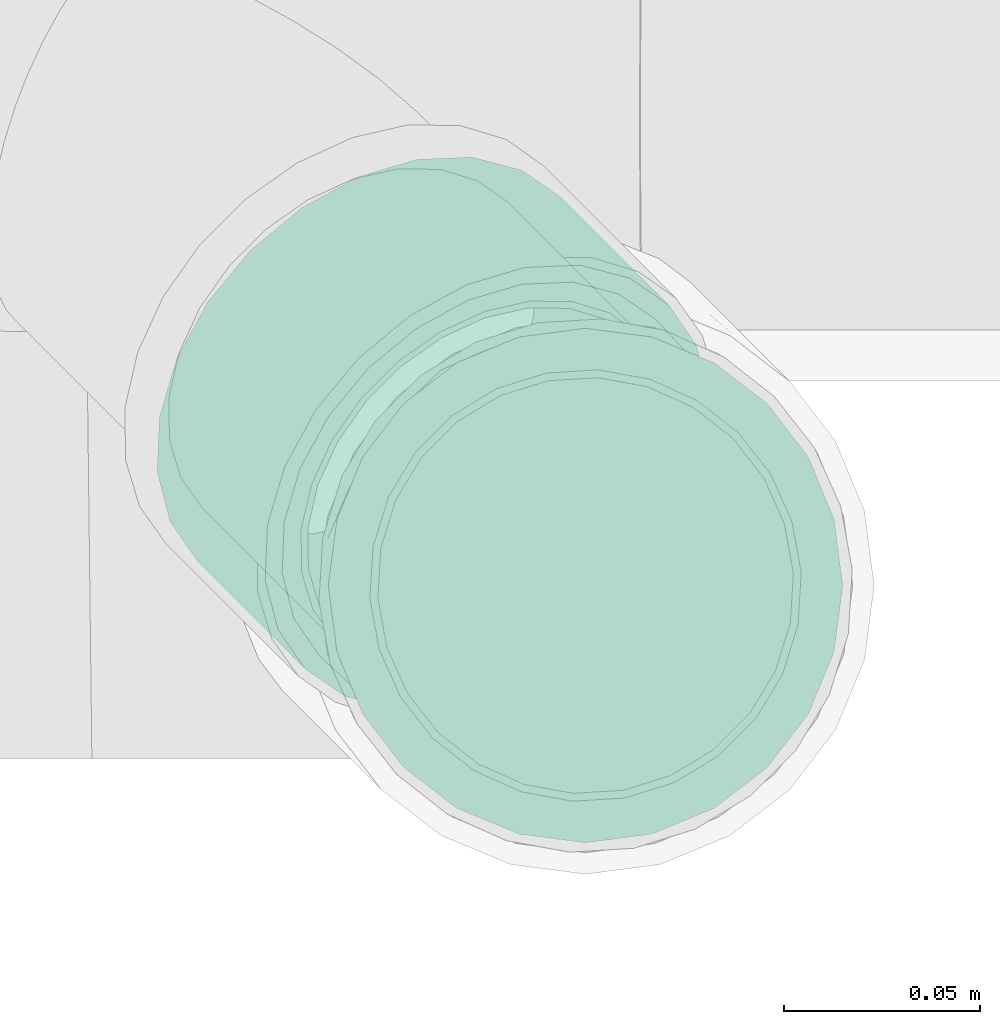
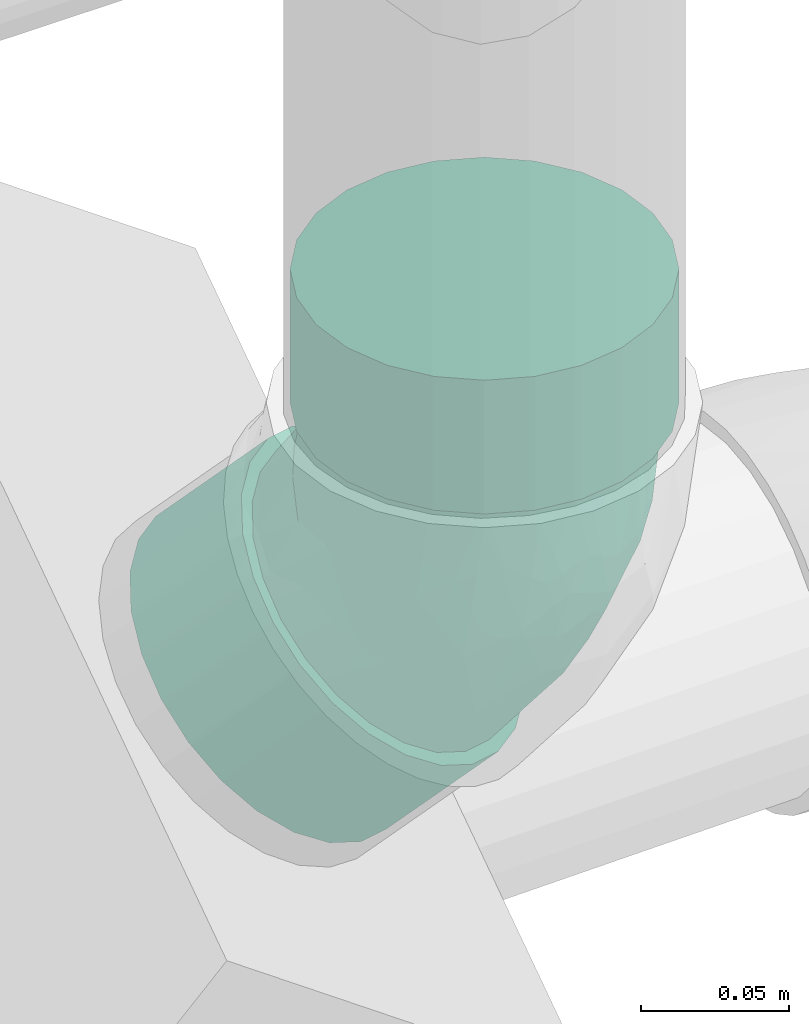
# One storey, part 123 of 156: 1 flow fitting.
"""IFC2X3 building model written with IfcOpenShell, lengths in millimetres."""

from ifc_helpers import new_model, entity, si_unit, converted_unit, derived_unit, direction, frame, origin_with_axes, place, context, subcontext, project, spatial, open_shell, surface_model, source, transform, mapped, type_object, element, save


model = new_model("IFC2X3")

# Units and contexts
model_context = context("Model", 3, precision=0.01, world=frame((0.0, 4.29681676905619e-09, 0.0)), true_north=direction((4.01073788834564e-13, 1.0)))
plan_context = context("Plan", 3, precision=0.01, world=frame((0.0, 4.29681676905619e-09, 0.0)), true_north=direction((4.01073788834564e-13, 1.0)))
body_context = subcontext(model_context, "Body", "Model", "MODEL_VIEW")
ifc_project = project(units=[converted_unit("PLANEANGLEUNIT", "DEGREE", entity("IfcPositiveLengthMeasure", 0.0174532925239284), si_unit("PLANEANGLEUNIT", "RADIAN"), dimensions=[0, 0, 0, 0, 0, 0, 0]), si_unit("AREAUNIT", "SQUARE_METRE"), si_unit("LENGTHUNIT", "METRE", prefix="MILLI"), si_unit("MASSUNIT", "GRAM", prefix="KILO"), si_unit("POWERUNIT", "WATT"), si_unit("PRESSUREUNIT", "PASCAL", prefix="KILO"), si_unit("FORCEUNIT", "NEWTON", prefix="KILO"), si_unit("ELECTRICVOLTAGEUNIT", "VOLT"), si_unit("ELECTRICCURRENTUNIT", "AMPERE"), si_unit("THERMODYNAMICTEMPERATUREUNIT", "DEGREE_CELSIUS"), si_unit("TIMEUNIT", "SECOND"), si_unit("VOLUMEUNIT", "CUBIC_METRE"), derived_unit("LINEARVELOCITYUNIT", [(si_unit("LENGTHUNIT", "METRE"), 1), (si_unit("TIMEUNIT", "SECOND"), -1)]), derived_unit("VOLUMETRICFLOWRATEUNIT", [(si_unit("VOLUMEUNIT", "CUBIC_METRE"), 1), (si_unit("TIMEUNIT", "SECOND"), -1)]), derived_unit("THERMALTRANSMITTANCEUNIT", [(si_unit("POWERUNIT", "WATT"), 1), (si_unit("THERMODYNAMICTEMPERATUREUNIT", "KELVIN"), -1), (si_unit("AREAUNIT", "SQUARE_METRE"), -1)]), derived_unit("SOUNDPRESSUREUNIT", [(si_unit("PRESSUREUNIT", "PASCAL"), 1)])], contexts=[model_context, plan_context])

# Site, building, storey
site_placement = place(None, frame((0.0, -4.29681676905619e-09, 0.0), z_axis=(0.0, 0.0, 1.0), x_axis=(1.0, 0.0, 0.0)))
site = spatial("IfcSite", under=ifc_project, at=site_placement, CompositionType="ELEMENT")
building_placement = place(site_placement, frame((0.0, 4.29681676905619e-09, 0.0), z_axis=(0.0, 0.0, 1.0), x_axis=(1.0, 0.0, 0.0)))
building = spatial("IfcBuilding", under=site, at=building_placement, Name="mc-building", CompositionType="ELEMENT")
storey_placement = place(building_placement, frame((0.0, 0.0, 205200.0), z_axis=(0.0, 0.0, 1.0), x_axis=(1.0, 0.0, 0.0)))
storey = spatial("IfcBuildingStorey", under=building, at=storey_placement, Name="Nivå D + 1,2 m", CompositionType="ELEMENT", Elevation=205200.0)

# Flow fitting
pipe_fitting_type = type_object("IfcPipeFittingType", Name="magi_sewer_bend_001", PredefinedType="BEND")
shared_shape = source(origin_with_axes(), body_context, "Body", "SurfaceModel", [
    surface_model("IfcShellBasedSurfaceModel", [(-105.13969, -16.95265, -63.26814), (-105.13969, -32.75, -56.72466), (-105.13969, -46.3155, -46.3155), (-105.13969, -63.26814, -16.95265), (-105.13969, 56.72466, -32.75), (-105.13969, -56.72466, -32.75), (-105.13969, -65.5, 0.0), (-105.13969, 16.95265, -63.26814), (-105.13969, 0.0, -65.5), (-105.13969, 32.75, -56.72466), (-105.13969, 46.3155, -46.3155), (-105.13969, 63.26814, -16.95265), (-105.13969, -63.26814, 16.95265), (-105.13969, -56.72466, 32.75), (-105.13969, -46.3155, 46.3155), (-105.13969, 63.26814, 16.95265), (-105.13969, -16.95265, 63.26814), (-105.13969, 0.0, 65.5), (-105.13969, -32.75, 56.72466), (-105.13969, 46.3155, 46.3155), (-105.13969, 56.72466, 32.75), (-105.13969, 65.5, 0.0), (-105.13969, 16.95265, 63.26814), (-105.13969, 32.75, 56.72466), (-50.13969, -16.95265, 63.26814), (-50.13969, 16.95265, 63.26814), (-50.13969, 0.0, 65.5), (-50.13969, -46.3155, 46.3155), (-50.13969, -32.75, 56.72466), (-50.13969, -56.72466, 32.75), (-50.13969, -63.26814, 16.95265), (-50.13969, 46.3155, 46.3155), (-50.13969, 32.75, 56.72466), (-50.13969, 63.26814, 16.95265), (-50.13969, 56.72466, 32.75), (-50.13969, 63.26814, -16.95265), (-50.13969, 65.5, 0.0), (-50.13969, -63.26814, -16.95265), (-50.13969, 32.75, -56.72466), (-50.13969, -65.5, 0.0), (-50.13969, -16.95265, -63.26814), (-50.13969, -56.72466, -32.75), (-50.13969, -46.3155, -46.3155), (-50.13969, -32.75, -56.72466), (-50.13969, 0.0, -65.5), (-50.13969, 46.3155, -46.3155), (-50.13969, 56.72466, -32.75), (-50.13969, 16.95265, -63.26814), (34.20254, 114.46496, 32.75), (27.9957, 120.66832, 0.0), (29.57431, 119.09061, 16.95265), (62.33348, 86.34978, 63.26814), (41.565, 107.10663, 46.3155), (51.15994, 97.51707, 56.72466), (74.32417, 74.36581, 65.5), (29.57431, 119.09061, -16.95265), (41.565, 107.10663, -46.3155), (34.20254, 114.46496, -32.75), (86.31485, 62.38183, -63.26814), (51.15994, 97.51707, -56.72466), (74.32417, 74.36581, -65.5), (62.33348, 86.34978, -63.26814), (107.08333, 41.62498, 46.3155), (86.31485, 62.38183, 63.26814), (97.4884, 51.21454, 56.72466), (119.07403, 29.641, 16.95265), (120.65263, 28.06328, 0.0), (114.44579, 34.26664, 32.75), (107.08333, 41.62498, -46.3155), (97.4884, 51.21454, -56.72466), (119.07403, 29.641, -16.95265), (114.44579, 34.26664, -32.75), (80.19404, -9.26076, 16.95265), (80.19404, -9.26076, -16.95265), (81.77264, -10.83848, 0.0), (68.20335, 2.72321, 46.3155), (75.56581, -4.63512, 32.75), (58.60842, 12.31278, 56.72466), (47.43487, 23.48007, 63.26814), (68.20335, 2.72321, -46.3155), (75.56581, -4.63512, -32.75), (58.60842, 12.31278, -56.72466), (47.43487, 23.48007, -63.26814), (35.44418, 35.46404, -65.5), (23.4535, 47.44802, -63.26814), (-9.30567, 80.18885, 16.95265), (23.4535, 47.44802, 63.26814), (2.68502, 68.20487, 46.3155), (12.27995, 58.6153, 56.72466), (-4.67744, 75.5632, 32.75), (12.27995, 58.6153, -56.72466), (-10.88428, 81.76657, 0.0), (2.68502, 68.20487, -46.3155), (-4.67744, 75.5632, -32.75), (-9.30567, 80.18885, -16.95265), (35.44418, 35.46404, 65.5), (-50.13969, 15.65855, -58.43851), (-50.13969, 0.0, -60.5), (-50.13969, 58.43851, -15.65855), (-50.13969, 30.25, -52.39454), (-50.13969, 52.39454, -30.25), (-50.13969, 42.77996, -42.77996), (-50.13969, -60.5, 0.0), (-50.13969, -30.25, -52.39454), (-50.13969, -42.77996, -42.77996), (-50.13969, -15.65855, -58.43851), (-50.13969, -58.43851, -15.65855), (-50.13969, -52.39454, -30.25), (-50.13969, -58.43851, 15.65855), (-50.13969, 58.43851, 15.65855), (-50.13969, 52.39454, 30.25), (-50.13969, 42.77996, 42.77996), (-50.13969, 30.25, 52.39454), (-50.13969, 15.65855, 58.43851), (-50.13969, -52.39454, 30.25), (-50.13969, -42.77996, 42.77996), (-50.13969, -30.25, 52.39454), (-50.13969, -15.65855, 58.43851), (-50.13969, 0.0, 60.5), (-50.13969, 60.5, 0.0), (5.18572, 65.70557, -42.77996), (35.44418, 35.46404, -60.5), (24.36882, 46.53321, -58.43851), (14.04822, 56.84803, -52.39454), (-7.34775, 78.23203, 0.0), (-1.61472, 72.5022, -30.25), (46.51955, 24.39487, -58.43851), (76.77803, -5.84665, 15.65855), (65.70266, 5.22251, -42.77996), (56.84015, 14.08005, -52.39454), (72.50309, -1.57411, -30.25), (78.23612, -7.30394, 0.0), (76.77803, -5.84665, -15.65855), (-5.88965, 76.77474, -15.65855), (5.18572, 65.70557, 42.77996), (-5.88965, 76.77474, 15.65855), (-1.61472, 72.5022, 30.25), (14.04822, 56.84803, 52.39454), (35.44418, 35.46404, 60.5), (24.36882, 46.53321, 58.43851), (65.70266, 5.22251, 42.77996), (72.50309, -1.57411, 30.25), (56.84015, 14.08005, 52.39454), (46.51955, 24.39487, 58.43851), (15.41186, -37.1928, 33.71255), (-13.39661, -34.19228, 46.68341), (-19.55442, -46.27116, 35.42451), (-20.2343, -56.56146, 0.0), (-3.14767, -54.31115, 0.0), (-12.92534, -55.73615, 10.32953), (46.55101, -18.87855, 35.42451), (-23.98089, -22.18389, 55.29341), (6.21201, -14.99117, 54.53057), (1.78884, 36.37766, 56.46866), (10.94097, 28.64856, 59.62079), (-18.07073, -5.82469, 59.69832), (-5.75845, 13.89663, 60.28757), (-30.32393, 8.38416, 60.13297), (-17.19334, 41.49196, 49.3935), (-26.69927, 50.73803, 38.18008), (32.64307, 1.27982, 55.29341), (-23.26263, 25.1758, 56.55927), (23.36011, -39.58342, 23.84022), (-10.85819, -52.34, 21.00881), (18.78752, -45.33913, 13.14539), (-24.9344, 60.17315, 24.85722), (48.55948, -30.25822, 10.32953), (54.30999, -25.67197, 0.0), (-24.23881, 64.83374, 12.71241), (44.69608, -29.31955, 21.00881), (16.89419, 8.66398, 59.69832), (33.65454, -14.69533, 46.68341), (-26.97952, 65.10853, 0.0), (10.15765, -24.51304, 48.24079), (18.74599, -45.23891, 0.0), (40.63965, -36.16667, 0.0), (-18.07073, -5.82469, -59.69832), (-12.92534, -55.73615, -10.32953), (18.78752, -45.33913, -13.14539), (16.89419, 8.66399, -59.69832), (-26.99464, 24.45043, -56.46866), (-27.99753, 12.51332, -59.62079), (-17.01331, 54.75168, -38.18008), (33.65455, -14.69533, -46.68341), (-24.93441, 60.17315, -24.85722), (44.69608, -29.31955, -21.00881), (-28.72259, 62.97577, -12.71241), (-1.3624, 34.25076, -56.55927), (-10.85819, -52.34, -21.00881), (-17.19334, 41.49195, -49.3935), (-19.55442, -46.27116, -35.42451), (-13.39661, -34.19228, -46.68341), (10.15765, -24.51304, -48.24079), (15.41186, -37.1928, -33.71254), (-23.98089, -22.18389, -55.29341), (32.64307, 1.27982, -55.29341), (6.21201, -14.99117, -54.53057), (48.55948, -30.25822, -10.32953), (15.5061, 27.37509, -60.13297), (11.48408, -44.50458, -23.84022), (46.55101, -18.87855, -35.42451), (-5.75845, 13.89663, -60.28757)], [open_shell([[[0, 1, 2]], [[0, 2, 3]], [[0, 3, 4]], [[3, 2, 5]], [[4, 3, 6]], [[0, 7, 8]], [[0, 9, 7]], [[10, 9, 0]], [[0, 4, 10]], [[6, 11, 4]], [[6, 12, 11]], [[12, 13, 14]], [[11, 14, 15]], [[16, 17, 14]], [[16, 14, 18]], [[15, 14, 17]], [[15, 19, 20]], [[21, 11, 15]], [[19, 22, 23]], [[22, 19, 15]], [[17, 22, 15]], [[11, 12, 14]], [[24, 25, 26]], [[27, 24, 28]], [[27, 29, 30]], [[24, 27, 25]], [[30, 25, 27]], [[25, 31, 32]], [[31, 25, 33]], [[31, 33, 34]], [[25, 30, 33]], [[33, 35, 36]], [[33, 30, 35]], [[37, 38, 39]], [[40, 37, 41]], [[42, 43, 40]], [[42, 40, 41]], [[44, 37, 40]], [[39, 45, 46]], [[46, 35, 39]], [[38, 44, 47]], [[38, 45, 39]], [[38, 37, 44]], [[39, 35, 30]], [[35, 11, 36]], [[46, 4, 35]], [[47, 44, 7]], [[45, 10, 46]], [[35, 4, 11]], [[11, 21, 36]], [[9, 38, 7]], [[9, 10, 45]], [[38, 47, 7]], [[10, 4, 46]], [[45, 38, 9]], [[44, 8, 7]], [[0, 40, 43]], [[42, 1, 43]], [[5, 41, 37]], [[42, 41, 2]], [[3, 37, 39]], [[40, 0, 8]], [[43, 1, 0]], [[42, 2, 1]], [[41, 5, 2]], [[3, 5, 37]], [[39, 6, 3]], [[40, 8, 44]], [[30, 12, 39]], [[29, 13, 30]], [[28, 18, 27]], [[27, 14, 29]], [[30, 13, 12]], [[12, 6, 39]], [[17, 16, 24]], [[16, 18, 28]], [[14, 27, 18]], [[14, 13, 29]], [[24, 16, 28]], [[24, 26, 17]], [[22, 25, 32]], [[31, 23, 32]], [[20, 34, 33]], [[31, 34, 19]], [[15, 33, 36]], [[25, 22, 17]], [[32, 23, 22]], [[31, 19, 23]], [[34, 20, 19]], [[15, 20, 33]], [[36, 21, 15]], [[25, 17, 26]], [[48, 49, 50]], [[51, 48, 52]], [[48, 51, 49]], [[51, 52, 53]], [[54, 49, 51]], [[55, 56, 57]], [[56, 55, 49]], [[54, 56, 49]], [[56, 58, 59]], [[59, 60, 61]], [[62, 56, 54]], [[63, 64, 62]], [[56, 62, 58]], [[65, 66, 62]], [[65, 62, 67]], [[58, 62, 66]], [[58, 68, 69]], [[60, 59, 58]], [[68, 70, 71]], [[70, 68, 58]], [[66, 70, 58]], [[54, 63, 62]], [[72, 73, 74]], [[75, 72, 76]], [[75, 77, 78]], [[72, 75, 73]], [[78, 73, 75]], [[73, 79, 80]], [[79, 73, 81]], [[73, 82, 81]], [[83, 82, 84]], [[85, 82, 73]], [[73, 78, 86]], [[73, 86, 85]], [[87, 86, 88]], [[87, 89, 85]], [[87, 85, 86]], [[85, 84, 82]], [[90, 91, 92]], [[91, 90, 84]], [[93, 91, 94]], [[91, 93, 92]], [[84, 85, 91]], [[78, 95, 86]], [[84, 61, 83]], [[90, 59, 84]], [[94, 91, 55]], [[92, 56, 90]], [[84, 59, 61]], [[61, 60, 83]], [[57, 93, 55]], [[57, 56, 92]], [[93, 94, 55]], [[56, 59, 90]], [[92, 93, 57]], [[91, 49, 55]], [[50, 85, 89]], [[87, 48, 89]], [[53, 88, 86]], [[87, 88, 52]], [[51, 86, 95]], [[85, 50, 49]], [[89, 48, 50]], [[87, 52, 48]], [[88, 53, 52]], [[51, 53, 86]], [[95, 54, 51]], [[85, 49, 91]], [[78, 63, 95]], [[77, 64, 78]], [[76, 67, 75]], [[75, 62, 77]], [[78, 64, 63]], [[63, 54, 95]], [[66, 65, 72]], [[65, 67, 76]], [[62, 75, 67]], [[62, 64, 77]], [[72, 65, 76]], [[72, 74, 66]], [[70, 73, 80]], [[79, 71, 80]], [[69, 81, 82]], [[79, 81, 68]], [[58, 82, 83]], [[73, 70, 66]], [[80, 71, 70]], [[79, 68, 71]], [[81, 69, 68]], [[58, 69, 82]], [[83, 60, 58]], [[73, 66, 74]], [[96, 97, 98]], [[99, 96, 98]], [[98, 100, 101]], [[99, 98, 101]], [[102, 98, 97]], [[103, 104, 105]], [[104, 97, 105]], [[106, 102, 107]], [[104, 107, 102]], [[104, 102, 97]], [[102, 108, 98]], [[109, 98, 108]], [[110, 109, 111]], [[112, 109, 108]], [[111, 109, 112]], [[113, 112, 108]], [[114, 115, 108]], [[116, 108, 115]], [[117, 118, 116]], [[108, 116, 118]], [[118, 113, 108]], [[119, 98, 109]], [[120, 121, 122]], [[120, 122, 123]], [[124, 120, 125]], [[126, 121, 127]], [[121, 120, 127]], [[126, 128, 129]], [[128, 126, 130]], [[130, 131, 132]], [[127, 131, 130]], [[127, 130, 126]], [[124, 125, 133]], [[134, 124, 135]], [[134, 135, 136]], [[127, 134, 137]], [[134, 127, 124]], [[138, 137, 139]], [[127, 140, 141]], [[140, 127, 142]], [[142, 138, 143]], [[138, 142, 127]], [[127, 137, 138]], [[124, 127, 120]], [[144, 145, 146]], [[147, 148, 149]], [[116, 115, 145]], [[141, 140, 150]], [[151, 145, 152]], [[146, 145, 115]], [[139, 153, 154]], [[117, 116, 151]], [[155, 156, 157]], [[118, 117, 155]], [[111, 158, 159]], [[142, 143, 160]], [[157, 113, 118]], [[112, 161, 158]], [[108, 147, 149]], [[137, 134, 158]], [[162, 163, 164]], [[158, 111, 112]], [[115, 114, 146]], [[110, 159, 165]], [[109, 110, 165]], [[127, 166, 167]], [[168, 119, 109]], [[169, 162, 164]], [[163, 149, 164]], [[112, 113, 161]], [[138, 154, 170]], [[140, 142, 171]], [[136, 135, 165]], [[170, 143, 138]], [[144, 146, 163]], [[140, 171, 150]], [[156, 154, 153]], [[171, 142, 160]], [[114, 163, 146]], [[166, 127, 169]], [[144, 150, 171]], [[157, 161, 113]], [[144, 162, 150]], [[109, 165, 168]], [[114, 108, 163]], [[172, 168, 124]], [[145, 173, 152]], [[135, 168, 165]], [[152, 170, 155]], [[136, 165, 159]], [[152, 160, 170]], [[136, 159, 134]], [[156, 155, 170]], [[139, 137, 153]], [[153, 158, 161]], [[151, 155, 117]], [[110, 111, 159]], [[169, 127, 141]], [[169, 141, 150]], [[173, 144, 171]], [[134, 159, 158]], [[158, 153, 137]], [[156, 153, 161]], [[145, 151, 116]], [[155, 151, 152]], [[170, 160, 143]], [[171, 160, 152]], [[108, 102, 147]], [[164, 148, 174]], [[108, 149, 163]], [[148, 164, 149]], [[166, 164, 175]], [[167, 166, 175]], [[167, 131, 127]], [[164, 166, 169]], [[170, 154, 156]], [[138, 139, 154]], [[155, 157, 118]], [[161, 157, 156]], [[144, 173, 145]], [[171, 152, 173]], [[124, 168, 135]], [[168, 172, 119]], [[150, 162, 169]], [[163, 162, 144]], [[175, 164, 174]], [[105, 97, 176]], [[148, 177, 178]], [[121, 126, 179]], [[180, 181, 96]], [[100, 182, 101]], [[129, 128, 183]], [[184, 182, 100]], [[130, 132, 185]], [[98, 186, 184]], [[123, 122, 187]], [[106, 177, 147]], [[99, 180, 96]], [[177, 106, 188]], [[120, 189, 182]], [[188, 107, 190]], [[190, 104, 191]], [[104, 103, 191]], [[192, 193, 191]], [[106, 107, 188]], [[104, 190, 107]], [[194, 103, 105]], [[195, 179, 126]], [[133, 125, 184]], [[196, 194, 176]], [[119, 172, 186]], [[193, 190, 191]], [[124, 133, 186]], [[196, 176, 179]], [[120, 123, 189]], [[184, 100, 98]], [[125, 182, 184]], [[194, 191, 103]], [[187, 189, 123]], [[181, 176, 97]], [[189, 187, 180]], [[101, 189, 99]], [[132, 167, 197]], [[198, 122, 121]], [[195, 126, 129]], [[199, 185, 178]], [[128, 200, 183]], [[196, 195, 183]], [[128, 130, 200]], [[201, 198, 179]], [[200, 193, 183]], [[201, 179, 176]], [[197, 167, 175]], [[198, 187, 122]], [[201, 181, 180]], [[177, 188, 178]], [[193, 199, 190]], [[183, 192, 196]], [[130, 185, 200]], [[133, 184, 186]], [[193, 200, 185]], [[125, 120, 182]], [[101, 182, 189]], [[189, 180, 99]], [[201, 180, 187]], [[176, 194, 105]], [[191, 194, 196]], [[183, 195, 129]], [[179, 195, 196]], [[147, 177, 148]], [[147, 102, 106]], [[199, 178, 188]], [[197, 178, 185]], [[178, 175, 174]], [[132, 131, 167]], [[178, 197, 175]], [[132, 197, 185]], [[176, 181, 201]], [[97, 96, 181]], [[179, 198, 121]], [[187, 198, 201]], [[193, 192, 183]], [[191, 196, 192]], [[119, 186, 98]], [[186, 172, 124]], [[190, 199, 188]], [[185, 199, 193]], [[148, 178, 174]]])]),
])
flow_fitting_placement = place(storey_placement, frame((327510.89898, 462605.08016, 4377.96697000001), z_axis=(0.7071587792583, 0.707054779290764, 0.0), x_axis=(0.0, 0.0, -1.0)))
element("IfcFlowFitting", 1, at=flow_fitting_placement, inside=storey, type_object=pipe_fitting_type, Name="magi_sewer_bend_001", context=body_context, shape_type="MappedRepresentation", body=[
    mapped(shared_shape, transform((0.0, 0.0, 0.0), scale=1.0)),
])

save(model, "model.ifc")
